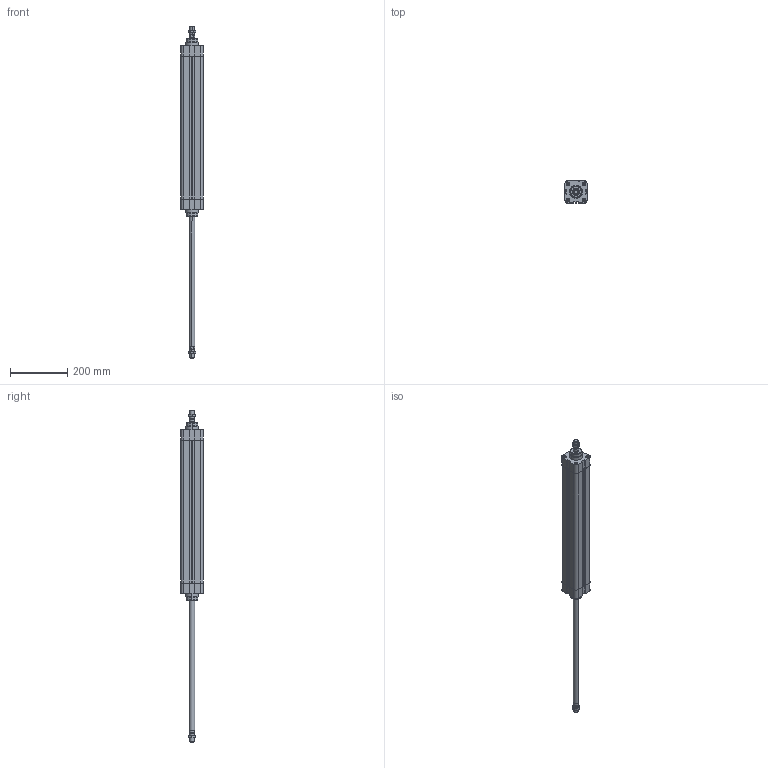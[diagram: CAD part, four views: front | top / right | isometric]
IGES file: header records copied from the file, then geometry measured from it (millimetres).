
Global section: file name: No Iges File Name specified; native system: Autodesk Inventor 2010; preprocessor: AutoDesk Inventor Iges Exporter R2010; author: rivolro1; date: 20090707.105820; units: millimetre
Bounding box: 77.5 x 77.5 x 1159 mm (x, y, z)
Volume: 2242690.1 mm3; surface area: 440593.9 mm2
Topology: 6 solids, 6 shells, 343 faces, 810 edges, 508 vertices
Faces by surface type: plane 137, bspline 86, cylinder 58, cone 38, revolution 20, torus 4
